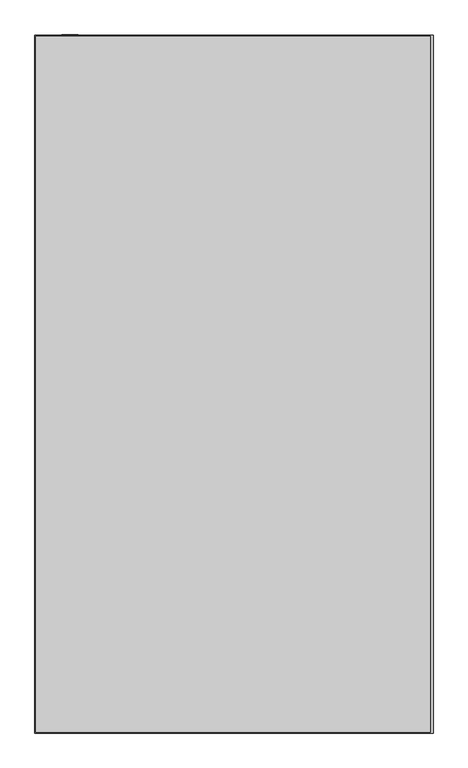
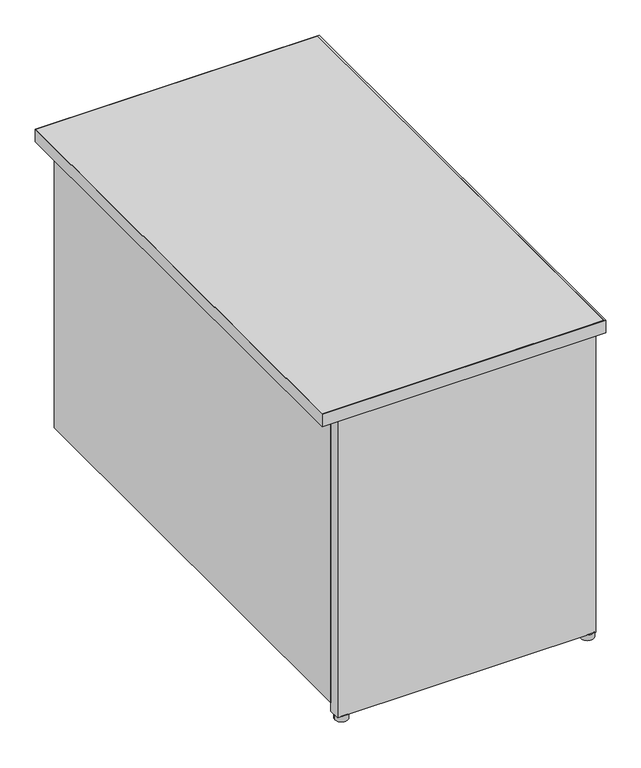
"""IFC4 building model written with IfcOpenShell, lengths in millimetres: furniture geometry, Steelcase - Kick Freestanding - Desk - Return - Full Height Modesty Panel : 24D x 42W - Left."""

from ifc_helpers import new_model, si_unit, point, frame, frame_2d, origin, origin_with_axes, place, context, project, spatial, polyline, circle_curve, trimmed, segment, composite_curve, outline, extrude, source, transform, mapped, element, save


def furniture_42c98f01(model_context):
    return source(origin(), model_context, "Body", "SweptSolid", [
        extrude(outline(composite_curve([segment(trimmed(circle_curve(frame_2d((2220.2474425, -1588.2145152)), 13.97), [point((2206.2774425, -1588.2145152))], [point((2234.2174425, -1588.2145152))], False, "CARTESIAN"), True, "CONTINUOUS"), segment(trimmed(circle_curve(frame_2d((2220.2474425, -1588.2145152)), 13.97), [point((2234.2174425, -1588.2145152))], [point((2206.2774425, -1588.2145152))], False, "CARTESIAN"), True, "CONTINUOUS")], self_intersect=False)), origin_with_axes(), (0.0, 0.0, 1.0), 12.7),
        extrude(outline(composite_curve([segment(trimmed(circle_curve(frame_2d((2748.0594425, -1588.2145152)), 13.97), [point((2734.0894425, -1588.2145152))], [point((2762.0294425, -1588.2145152))], False, "CARTESIAN"), True, "CONTINUOUS"), segment(trimmed(circle_curve(frame_2d((2748.0594425, -1588.2145152)), 13.97), [point((2762.0294425, -1588.2145152))], [point((2734.0894425, -1588.2145152))], False, "CARTESIAN"), True, "CONTINUOUS")], self_intersect=False)), origin_with_axes(), (0.0, 0.0, 1.0), 12.7),
        extrude(outline(polyline([(2205.0074425, -1575.6669152), (2328.2736437, -1575.6669152), (2328.2736437, -1598.0951136), (2427.9940467, -1598.0951136), (2427.9940467, -1575.6669041), (2536.7314502, -1575.6669041), (2536.7314502, -1598.0951136), (2636.4518532, -1598.0951136), (2636.4518532, -1575.6669041), (2759.4894376, -1575.6669041), (2759.4894376, -1600.1525098), (2205.0074425, -1600.1525098), (2205.0074425, -1575.6669152)])), frame((0.0, 0.0, 12.7), z_axis=(0.0, 0.0, 1.0), x_axis=(1.0, 0.0, 0.0)), (0.0, 0.0, 1.0), 682.244),
        extrude(outline(polyline([(2230.4074426, -546.0525152), (2230.4074426, -1575.6669152), (2205.0074425, -1575.6669152), (2205.0074425, -546.0525152), (2230.4074426, -546.0525152)])), frame((0.0, 0.0, 31.242), z_axis=(0.0, 0.0, 1.0), x_axis=(1.0, 0.0, 0.0)), (0.0, 0.0, 1.0), 663.702),
        extrude(outline(polyline([(2769.2176592, -548.0845152), (2769.2176592, -1612.3445152), (2164.8500425, -1612.3445152), (2164.8500425, -548.0845152), (2769.2176592, -548.0845152)])), frame((0.0, 0.0, 694.944), z_axis=(0.0, 0.0, 1.0), x_axis=(1.0, 0.0, 0.0)), (0.0, 0.0, 1.0), 28.956),
        extrude(outline(polyline([(2773.4594425, -546.8145152), (2773.4594425, -1613.6145152), (2163.8594425, -1613.6145152), (2163.8594425, -546.8145152), (2773.4594425, -546.8145152)]), holes=[polyline([(2769.2176592, -548.0845152), (2164.8500425, -548.0845152), (2164.8500425, -1612.3445152), (2769.2176592, -1612.3445152), (2769.2176592, -548.0845152)])]), frame((0.0, 0.0, 694.944), z_axis=(0.0, 0.0, 1.0), x_axis=(1.0, 0.0, 0.0)), (0.0, 0.0, 1.0), 28.956),
    ])


if __name__ == "__main__":
    model = new_model("IFC4")
    model_context = context("Model", 3, world=origin())
    ifc_project = project(units=[si_unit("LENGTHUNIT", "METRE", prefix="MILLI")], contexts=[model_context])
    site = spatial("IfcSite", under=ifc_project)
    building = spatial("IfcBuilding", under=site)
    placement = place(None, origin())
    furniture_shape = furniture_42c98f01(model_context)
    element("IfcFurniture", 1, ObjectType="Steelcase - Kick Freestanding - Desk - Return - Full Height Modesty Panel : 24D x 42W - Left", at=placement, inside=building, context=model_context, shape_type="MappedRepresentation", body=[
        mapped(furniture_shape, transform((0.0, 0.0, 0.0), x_axis=(1.0, 0.0, 0.0), y_axis=(0.0, 1.0, 0.0), z_axis=(0.0, 0.0, 1.0))),
    ])
    save(model, "model.ifc")
